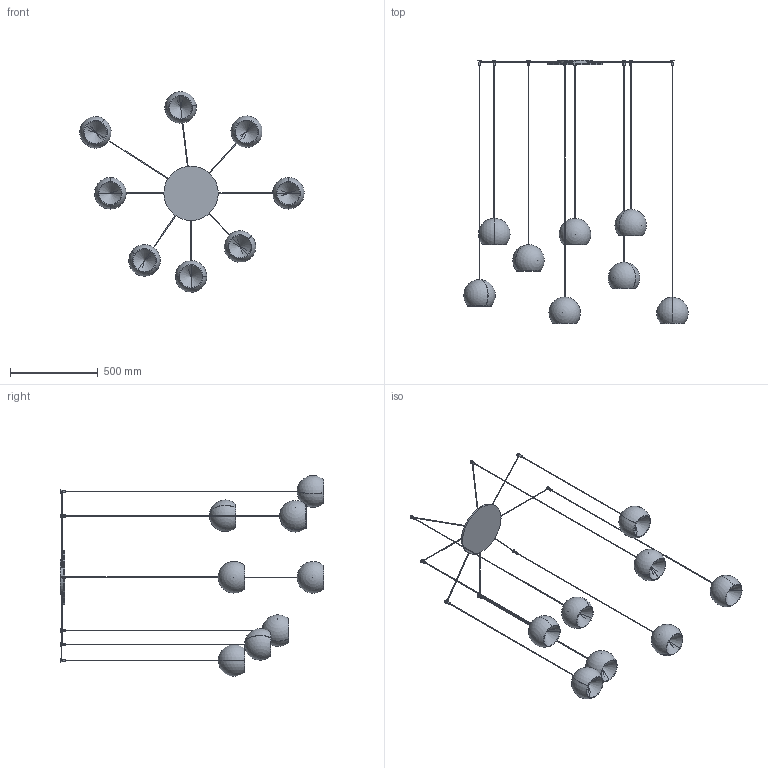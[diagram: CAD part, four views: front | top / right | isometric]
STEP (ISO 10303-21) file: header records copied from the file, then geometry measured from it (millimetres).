
FILE_DESCRIPTION (( 'STEP AP203' ), '1' );
FILE_NAME ('CHRA5-00-CHERRY_8 sospensione.STEP', '2025-05-06T06:17:48', ( '' ), ( '' ), 'SwSTEP 2.0', 'SolidWorks 2022', '' );
FILE_SCHEMA (( 'CONFIG_CONTROL_DESIGN' ));
Length unit declared in the file: millimetre
Products named in the file (8): CHERRY_Lampada singola_Cherry 180 | H=1600; CHERRY_Lampada singola_Cherry 180 | H=1700; CHERRY_Lampada singola_Cherry 180 | H=1800; CHERRY_Lampada singola_Cherry 180 | H=1950; CHRA5-00-CHERRY_8 sospensione; CHERRY_Lampada singola_Cherry 180 | H=1500; CHERRY_Lampada singola_Cherry 180 | H=2000; CHERRY_Rosone_Cherry 8 (x d.2200)<A macchina>
Assembly tree (9 placements, depth 2):
  CHRA5-00-CHERRY_8 sospensione
    CHERRY_Rosone_Cherry 8 (x d.2200)<A macchina>
    CHERRY_Lampada singola_Cherry 180 | H=1600
    CHERRY_Lampada singola_Cherry 180 | H=1500  x2
    CHERRY_Lampada singola_Cherry 180 | H=2000
    CHERRY_Lampada singola_Cherry 180 | H=1700
    CHERRY_Lampada singola_Cherry 180 | H=1950  x2
    CHERRY_Lampada singola_Cherry 180 | H=1800
Bounding box: 1278.87 x 1500 x 1142.49 mm (x, y, z)
Volume: 2870442.8 mm3; surface area: 2011665.8 mm2
Topology: 41 solids, 41 shells, 313 faces, 738 edges, 460 vertices
Faces by surface type: cylinder 150, plane 99, sphere 32, cone 32
Entity records: 7722 total; most frequent: CARTESIAN_POINT 1655, DIRECTION 1184, ORIENTED_EDGE 988, AXIS2_PLACEMENT_3D 525, EDGE_CURVE 494, VERTEX_POINT 324, EDGE_LOOP 274, CIRCLE 264
